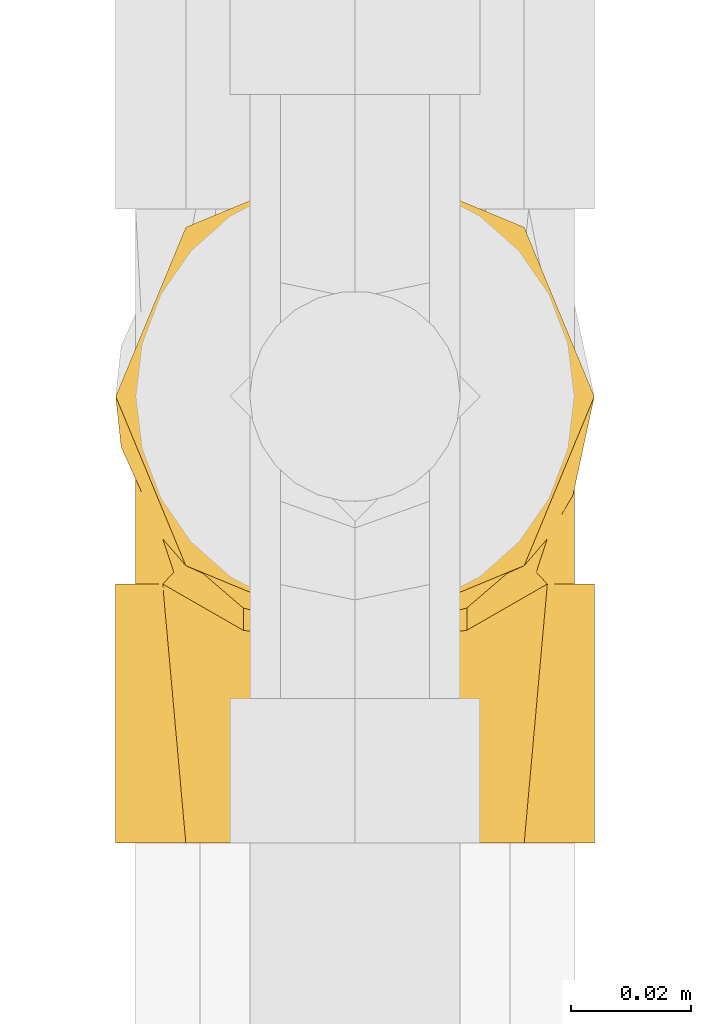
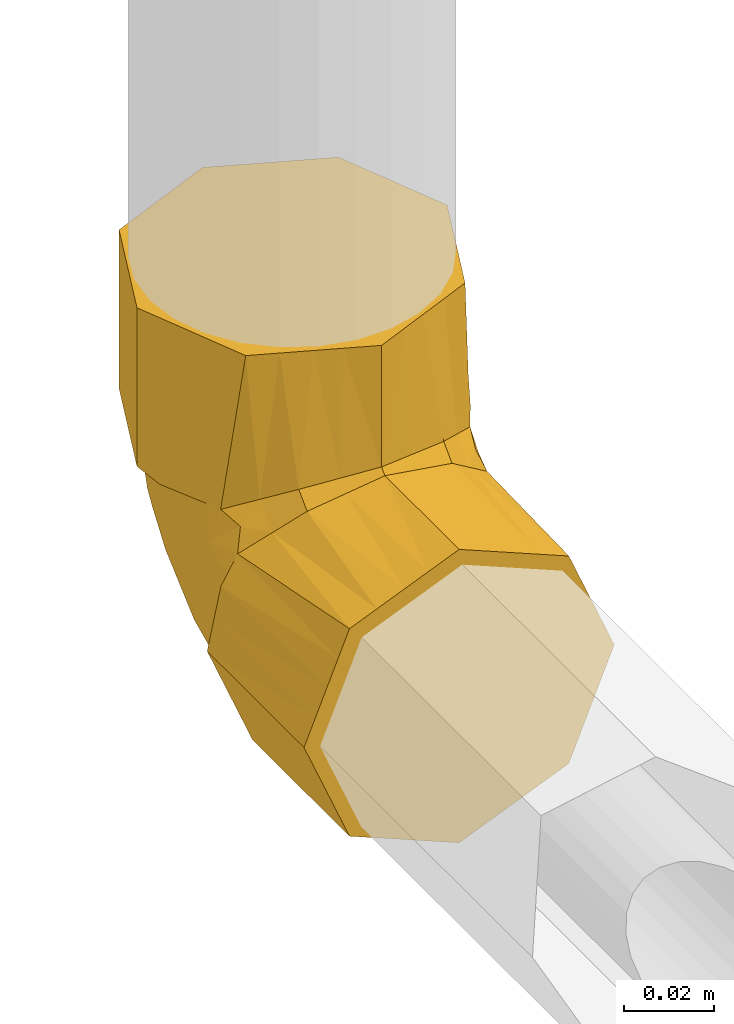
# One storey, part 244 of 652: 1 covering.
"""IFC2X3 building model written with IfcOpenShell, lengths in millimetres."""

from ifc_helpers import new_model, entity, si_unit, converted_unit, direction, frame, origin, place, context, subcontext, project, spatial, faceted_brep, material, type_object, element, save


model = new_model("IFC2X3")

# Units and contexts
model_context = context("Model", 3, precision=0.01, world=frame((0.0, 0.0, 308426.39999999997)), true_north=direction((6.123233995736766e-17, 1.0)))
plan_context = context("Plan", 3, precision=0.01, world=frame((0.0, 0.0, 308426.39999999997)), true_north=direction((6.123233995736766e-17, 1.0)))
body_context = subcontext(model_context, "Body", "Model", "MODEL_VIEW")
ifc_project = project(units=[si_unit("LENGTHUNIT", "METRE", prefix="MILLI"), si_unit("AREAUNIT", "SQUARE_METRE"), si_unit("VOLUMEUNIT", "CUBIC_METRE"), converted_unit("PLANEANGLEUNIT", "DEGREE", entity("IfcPlaneAngleMeasure", 0.017453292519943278), si_unit("PLANEANGLEUNIT", "RADIAN"), dimensions=[0, 0, 0, 0, 0, 0, 0])], contexts=[model_context, plan_context])

# Site, building, storey
site_placement = place(None, origin())
site = spatial("IfcSite", under=ifc_project, at=site_placement, Name="Default", CompositionType="ELEMENT")
building_placement = place(site_placement, origin())
building = spatial("IfcBuilding", under=site, at=building_placement, CompositionType="ELEMENT")
storey_placement = place(building_placement, frame((0.0, 0.0, 1730.6999999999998)))
storey = spatial("IfcBuildingStorey", under=building, at=storey_placement, Name="EG_Produktion_FFB", CompositionType="ELEMENT", Elevation=1730.6999999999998)

# Covering
ifc_material = material(Name="Dämmung - Armaflex-Schlauch")
covering_type = type_object("IfcCoveringType", Name="Rohrdämmung außen:Armaflex-Schlauch", PredefinedType="INSULATION")
covering_placement = place(storey_placement, frame((78488.60472776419, 51563.77835396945, 2358.6047277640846)))
element("IfcCovering", 1, at=covering_placement, inside=storey, type_object=covering_type, material=ifc_material, Name="Rohrdämmung außen:Armaflex-Schlauch", ObjectType="Rohrdämmung außen:Armaflex-Schlauch", PredefinedType="INSULATION", context=body_context, shape_type="Brep", body=[
    faceted_brep([(6.09855493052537, 43.05000000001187, 55.370387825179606), (5.626502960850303, 43.05000000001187, 51.35297020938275), (4.895272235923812, 43.05000000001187, 45.1298011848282), (8.337309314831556, 43.05000000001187, 37.49419488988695), (11.779346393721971, 43.05000000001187, 29.85858859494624), (15.013196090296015, 43.05000000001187, 22.68481256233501), (18.247045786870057, 43.05000000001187, 15.51103652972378), (29.821159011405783, 43.05000000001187, 11.25690750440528), (41.395272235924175, 43.05000000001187, 7.002778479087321), (48.61370078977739, 43.05000000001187, 10.652022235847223), (55.8321293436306, 43.05000000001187, 14.301265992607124), (63.050557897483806, 43.05000000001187, 17.950509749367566), (70.26898645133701, 43.05000000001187, 21.599753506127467), (72.65925463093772, 43.05000000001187, 28.974657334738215), (75.27726343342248, 43.05000000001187, 37.05222925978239), (77.89527223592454, 43.05000000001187, 45.1298011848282), (77.16404151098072, 43.05000000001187, 51.35297020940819), (76.69198954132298, 43.05000000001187, 55.370387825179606), (75.03870510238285, 43.05000000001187, 60.222069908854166), (73.38542066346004, 43.05000000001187, 65.07375199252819), (76.8423263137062, 43.05000000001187, 57.433378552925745), (80.29923196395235, 43.05000000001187, 49.793005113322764), (81.19527223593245, 43.05000000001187, 41.39527223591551), (77.88147587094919, 43.05000000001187, 33.395060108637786), (75.36669718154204, 43.05000000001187, 27.32384729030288), (72.45240965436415, 43.05000000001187, 20.288134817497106), (69.53812212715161, 43.05000000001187, 13.252422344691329), (62.502409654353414, 43.05000000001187, 10.338134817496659), (55.466697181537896, 43.05000000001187, 7.4238472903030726), (48.43098470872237, 43.05000000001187, 4.509559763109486), (41.395272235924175, 43.05000000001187, 1.5952722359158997), (33.39506004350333, 43.05000000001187, 4.9090686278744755), (27.32384729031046, 43.05000000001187, 7.4238472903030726), (20.288134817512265, 43.05000000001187, 10.338134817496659), (13.252422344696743, 43.05000000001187, 13.252422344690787), (10.338134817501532, 43.05000000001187, 20.288134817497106), (7.423847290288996, 43.05000000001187, 27.32384729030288), (4.909068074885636, 43.05000000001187, 33.3950613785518), (1.5952722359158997, 43.05000000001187, 41.39527223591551), (3.3647978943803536, 43.05000000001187, 49.598680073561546), (5.1343235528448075, 43.05000000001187, 57.80208791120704), (9.405123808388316, 43.05000000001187, 65.07375199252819), (7.751839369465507, 43.05000000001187, 60.222069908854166), (78.28098470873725, 0.0, 48.43098470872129), (75.36669718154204, 0.0, 55.46669718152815), (72.45240965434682, 0.0, 62.502409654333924), (69.53812212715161, 0.0, 69.53812212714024), (62.50240965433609, 0.0, 72.45240965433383), (55.466697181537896, 0.0, 75.36669718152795), (49.39548459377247, 0.0, 77.88147577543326), (41.395272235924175, 0.0, 81.19527223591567), (33.39506150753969, 0.0, 77.8814764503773), (27.32384729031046, 0.0, 75.36669718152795), (20.28813481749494, 0.0, 72.45240965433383), (13.252422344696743, 0.0, 69.53812212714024), (10.338134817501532, 0.0, 62.502409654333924), (7.4238472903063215, 0.0, 55.46669718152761), (4.509559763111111, 0.0, 48.43098470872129), (1.5952722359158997, 0.0, 41.39527223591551), (4.509559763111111, 0.0, 34.359559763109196), (7.423847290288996, 0.0, 27.32384729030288), (10.338134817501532, 0.0, 20.288134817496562), (13.252422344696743, 0.0, 13.252422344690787), (20.288134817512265, 0.0, 10.3381348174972), (27.32384729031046, 0.0, 7.4238472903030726), (34.359559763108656, 0.0, 4.509559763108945), (41.395272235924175, 0.0, 1.5952722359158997), (48.43098470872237, 0.0, 4.509559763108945), (55.466697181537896, 0.0, 7.4238472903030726), (62.502409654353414, 0.0, 10.3381348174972), (69.53812212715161, 0.0, 13.252422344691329), (74.5676791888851, 0.0, 25.394847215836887), (77.88147571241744, 0.0, 33.3950597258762), (81.19527223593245, 0.0, 41.39527223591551), (66.68337377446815, 39.20119599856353, 70.83137669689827), (41.395272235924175, 32.967959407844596, 81.19527223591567), (50.688299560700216, 34.16017570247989, 78.89213681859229), (59.981326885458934, 35.352391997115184, 76.5890014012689), (55.33481322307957, 34.75628384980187, 77.74056910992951), (16.10717069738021, 39.20119599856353, 70.83137669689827), (32.10224491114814, 34.16017570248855, 78.89213681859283), (22.809217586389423, 35.352391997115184, 76.5890014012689), (37.08137186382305, 33.52139610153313, 80.12613767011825), (1.5952722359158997, 74.25000000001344, 72.59527223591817), (4.90906857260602, 82.25021205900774, 72.59527223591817), (7.423847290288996, 88.32142494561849, 72.59527223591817), (10.338134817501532, 95.35713741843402, 72.59527223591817), (13.252422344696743, 102.39284989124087, 72.59527223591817), (20.28813481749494, 105.30713741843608, 72.59527223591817), (27.32384729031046, 108.22142494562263, 72.59527223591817), (33.39506143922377, 110.7362041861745, 72.59527223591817), (41.395272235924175, 114.05000000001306, 72.59527223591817), (49.39548405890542, 110.73620376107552, 72.59527223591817), (55.466697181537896, 108.22142494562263, 72.59527223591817), (62.502409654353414, 105.30713741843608, 72.59527223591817), (69.53812212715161, 102.39284989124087, 72.59527223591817), (72.45240965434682, 95.35713741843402, 72.59527223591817), (75.36669718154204, 88.32142494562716, 72.59527223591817), (78.28098470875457, 81.2857124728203, 72.59527223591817), (81.19527223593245, 74.25000000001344, 72.59527223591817), (79.425746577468, 66.04659216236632, 72.59527223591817), (77.65622091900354, 57.84318432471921, 72.59527223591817), (73.38542066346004, 50.571520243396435, 72.59527223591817), (75.03870510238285, 55.42320232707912, 72.59527223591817), (76.69198954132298, 60.27488441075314, 72.59527223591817), (77.1640414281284, 64.2923013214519, 72.59527223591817), (77.52965683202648, 67.40388618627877, 72.59527223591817), (77.89527223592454, 70.51547105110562, 72.59527223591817), (74.55483320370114, 77.9222713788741, 72.59527223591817), (71.21439417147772, 85.32907170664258, 72.59527223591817), (67.8739551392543, 92.73587203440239, 72.59527223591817), (64.53351610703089, 100.14267236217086, 72.59527223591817), (58.748955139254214, 102.2676277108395, 72.59527223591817), (52.96439417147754, 104.39258305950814, 72.59527223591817), (41.395272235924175, 108.64249375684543, 72.59527223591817), (34.17467666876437, 104.99034516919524, 72.59527223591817), (26.954081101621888, 101.3381965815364, 72.59527223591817), (19.73348553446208, 97.68604799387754, 72.59527223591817), (12.512889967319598, 94.0338994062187, 72.59527223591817), (10.608485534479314, 88.15429231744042, 72.59527223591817), (8.704081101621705, 82.27468522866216, 72.59527223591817), (4.895272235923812, 70.51547105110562, 72.59527223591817), (5.26088763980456, 67.40388618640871, 72.59527223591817), (5.6265030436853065, 64.29230132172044, 72.59527223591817), (6.09855493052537, 60.27488441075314, 72.59527223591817), (7.751839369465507, 55.42320232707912, 72.59527223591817), (9.405123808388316, 50.571520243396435, 72.59527223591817), (5.948218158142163, 58.21189368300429, 72.59527223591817), (2.4913125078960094, 65.8522671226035, 72.59527223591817), (78.28098470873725, 81.2857124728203, 115.64527223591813), (75.36669718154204, 88.32142494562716, 115.64527223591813), (72.45240965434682, 95.35713741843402, 115.64527223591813), (69.53812212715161, 102.39284989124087, 115.64527223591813), (57.39569695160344, 107.42240707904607, 115.64527223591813), (49.39548459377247, 110.73620353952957, 115.64527223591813), (41.395272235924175, 114.05000000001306, 115.64527223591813), (34.35955976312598, 111.13571247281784, 115.64527223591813), (27.32384729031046, 108.22142494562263, 115.64527223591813), (20.28813481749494, 105.30713741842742, 115.64527223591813), (13.252422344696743, 102.39284989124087, 115.64527223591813), (10.338134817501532, 95.35713741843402, 115.64527223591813), (7.4238472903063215, 88.32142494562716, 115.64527223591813), (4.509559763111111, 81.2857124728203, 115.64527223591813), (1.5952722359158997, 74.25000000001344, 115.64527223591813), (4.509559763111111, 67.21428752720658, 115.64527223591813), (7.423847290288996, 60.17857505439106, 115.64527223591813), (10.338134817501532, 53.142862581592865, 115.64527223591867), (13.252422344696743, 46.10715010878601, 115.64527223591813), (20.28813481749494, 43.19286258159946, 115.64527223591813), (27.32384729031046, 40.27857505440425, 115.64527223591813), (33.395059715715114, 37.763796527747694, 115.64527223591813), (41.395272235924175, 34.45000000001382, 115.64527223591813), (49.395482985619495, 37.763795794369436, 115.64527223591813), (55.466697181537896, 40.27857505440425, 115.64527223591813), (62.502409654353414, 43.192862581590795, 115.64527223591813), (69.53812212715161, 46.10715010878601, 115.64527223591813), (72.45240965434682, 53.142862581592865, 115.64527223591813), (75.36669718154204, 60.17857505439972, 115.64527223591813), (77.8814757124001, 66.24978748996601, 115.64527223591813), (81.19527223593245, 74.25000000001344, 115.64527223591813), (41.395272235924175, 34.45000000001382, 82.67731282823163), (50.688299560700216, 36.75313541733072, 81.48509653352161), (59.981326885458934, 39.05627083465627, 80.29288023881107), (50.023072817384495, 36.58826909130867, 81.5704394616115), (66.68337377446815, 44.81389553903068, 76.44407623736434), (16.10717069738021, 44.81389553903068, 76.44407623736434), (32.10224491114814, 36.75313541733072, 81.48509653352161), (22.809217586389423, 39.05627083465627, 80.29288023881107), (32.76747165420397, 36.588269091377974, 81.5704394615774), (37.08137194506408, 35.51913454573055, 82.12387614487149), (70.65290767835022, 87.4400129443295, 57.40447907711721), (70.91336597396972, 59.348609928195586, 29.221391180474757), (74.40809412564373, 64.90306423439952, 40.05276523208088), (77.89527223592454, 54.54953211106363, 51.722743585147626), (77.07752798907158, 57.65826392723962, 44.46871669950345), (76.96826993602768, 69.6935440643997, 55.206079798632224), (68.49449972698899, 78.76668687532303, 40.81191866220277), (65.48820465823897, 63.735763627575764, 24.889275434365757), (41.395272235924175, 91.87217906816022, 37.58562470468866), (49.463783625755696, 97.2895044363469, 46.90627199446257), (49.826587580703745, 81.0222551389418, 27.557347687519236), (41.395272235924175, 55.25554476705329, 14.648490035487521), (50.82629237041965, 61.78394282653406, 14.916371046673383), (62.241411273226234, 82.06890696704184, 36.28103805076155), (77.89527223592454, 68.68470117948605, 70.20187735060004), (77.89527223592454, 66.85393130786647, 67.80848246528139), (77.89527223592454, 63.19239156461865, 63.02169269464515), (77.89527223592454, 62.53250158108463, 62.1590079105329), (77.89527223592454, 58.87096183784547, 57.37221813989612), (65.57850605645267, 92.43998191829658, 55.056146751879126), (59.2600406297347, 71.36422849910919, 24.586625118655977), (60.27659836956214, 57.493897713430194, 17.342470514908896), (58.24092024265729, 92.84978030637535, 45.92174075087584), (55.90055874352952, 84.77174820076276, 33.99708214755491), (41.395272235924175, 100.25733641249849, 55.090448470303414), (41.395272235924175, 100.8250821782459, 56.27567245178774), (41.395272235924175, 67.46108953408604, 22.29420159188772), (41.395272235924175, 73.39433514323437, 26.010863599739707), (41.395272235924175, 79.6666343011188, 29.93991314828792), (55.80011869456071, 100.69929050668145, 57.878489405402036), (73.86746114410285, 78.77811020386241, 53.1751981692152), (41.395272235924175, 58.22216757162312, 16.506821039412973), (77.89527223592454, 48.32447730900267, 48.15377857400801), (77.2391786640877, 48.69317164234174, 55.979001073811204), (76.0110802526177, 47.964423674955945, 61.26475606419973), (41.395272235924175, 33.73736290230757, 81.90790933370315), (76.11562270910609, 51.58600496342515, 64.05926779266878), (71.5340814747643, 44.98822020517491, 70.65705174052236), (76.01108003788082, 54.38051589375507, 67.6808492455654), (77.22455062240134, 59.63820058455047, 67.04460292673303), (5.551365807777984, 48.693171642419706, 55.97900107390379), (4.895272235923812, 48.32447730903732, 48.15377857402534), (11.256463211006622, 44.98822011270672, 70.65705209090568), (6.674922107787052, 51.58600421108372, 64.05926854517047), (4.895272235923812, 58.87096183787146, 57.3722181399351), (6.7794642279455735, 47.964423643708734, 61.26475607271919), (6.779464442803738, 54.38051588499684, 67.68084927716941), (5.565993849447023, 59.63820058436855, 67.04460292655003), (4.895272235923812, 66.85393130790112, 67.8084824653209), (4.895272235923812, 68.68470117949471, 70.201877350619), (4.895272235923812, 63.19239156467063, 63.021692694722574), (4.895272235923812, 62.53250158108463, 62.1590079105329), (4.895272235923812, 54.54953211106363, 51.722743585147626), (7.904825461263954, 59.71456886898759, 37.596494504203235), (11.153131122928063, 58.230498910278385, 29.779001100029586), (6.9092149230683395, 76.57285852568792, 58.35673429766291), (31.851584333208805, 83.5066227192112, 30.250088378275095), (16.779704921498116, 80.03320078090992, 38.5098237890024), (9.122171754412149, 74.5903343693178, 47.23069909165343), (14.6078368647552, 87.07939433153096, 50.96010723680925), (5.8966784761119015, 66.22403301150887, 50.77856611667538), (5.88827797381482, 56.06914431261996, 42.44960378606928), (15.351617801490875, 67.93837358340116, 29.82669278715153), (22.54033754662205, 86.81855141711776, 39.68498593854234), (31.634152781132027, 98.52707757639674, 49.866350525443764), (22.719372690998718, 96.99211743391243, 55.10540828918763), (9.627121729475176, 83.51012836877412, 58.247507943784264), (24.594765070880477, 64.90812724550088, 19.804135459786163), (21.091652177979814, 74.90326070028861, 29.150871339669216), (16.75038261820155, 56.08355083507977, 21.43902557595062), (33.11251139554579, 68.7569483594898, 18.424421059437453)], [[[0, 1, 2, 3, 4, 5, 6, 7, 8, 9, 10, 11, 12, 13, 14, 15, 16, 17, 18, 19, 20, 21, 22, 23, 24, 25, 26, 27, 28, 29, 30, 31, 32, 33, 34, 35, 36, 37, 38, 39, 40, 41, 42]], [[43, 44, 45, 46, 47, 48, 49, 50, 51, 52, 53, 54, 55, 56, 57, 58, 59, 60, 61, 62, 63, 64, 65, 66, 67, 68, 69, 70, 71, 72, 73]], [[47, 46, 74]], [[75, 50, 49]], [[76, 75, 49]], [[48, 77, 78, 76]], [[47, 74, 77]], [[44, 20, 45]], [[43, 21, 44]], [[46, 19, 74]], [[77, 48, 47]], [[44, 21, 20]], [[43, 22, 21]], [[48, 76, 49]], [[43, 73, 22]], [[45, 20, 19]], [[19, 46, 45]], [[23, 22, 73, 72, 71, 70, 26, 25, 24]], [[26, 70, 69, 68, 67, 66, 30, 29, 28, 27]], [[38, 37, 36, 35, 34, 62, 61, 60, 59, 58]], [[30, 66, 65, 64, 63, 62, 34, 33, 32, 31]], [[56, 40, 39]], [[53, 79, 54]], [[39, 57, 56]], [[41, 55, 54]], [[40, 55, 41]], [[80, 52, 51]], [[52, 80, 81]], [[58, 57, 38]], [[51, 75, 82, 80]], [[38, 57, 39]], [[79, 53, 81]], [[55, 40, 56]], [[51, 50, 75]], [[53, 52, 81]], [[79, 41, 54]], [[83, 84, 85, 86, 87, 88, 89, 90, 91, 92, 93, 94, 95, 96, 97, 98, 99, 100, 101, 102, 103, 104, 105, 106, 107, 108, 109, 110, 111, 112, 113, 114, 115, 116, 117, 118, 119, 120, 121, 122, 123, 124, 125, 126, 127, 128]], [[129, 130, 131, 132, 133, 134, 135, 136, 137, 138, 139, 140, 141, 142, 143, 144, 145, 146, 147, 148, 149, 150, 151, 152, 153, 154, 155, 156, 157, 158, 159]], [[135, 134, 133, 132, 95, 94, 93, 92, 91]], [[95, 132, 131, 130, 129, 159, 99, 98, 97, 96]], [[159, 158, 157, 100]], [[101, 156, 102]], [[99, 159, 100]], [[101, 100, 157]], [[152, 151, 160]], [[102, 156, 155]], [[153, 161, 162]], [[161, 153, 152]], [[152, 160, 163, 161]], [[154, 164, 155]], [[164, 154, 162]], [[156, 101, 157]], [[154, 153, 162]], [[164, 102, 155]], [[148, 147, 165]], [[149, 166, 150]], [[166, 149, 167]], [[160, 151, 150]], [[148, 165, 167]], [[145, 127, 146]], [[144, 128, 145]], [[147, 126, 165]], [[167, 149, 148]], [[145, 128, 127]], [[144, 83, 128]], [[150, 166, 168, 169, 160]], [[144, 143, 83]], [[146, 127, 126]], [[126, 147, 146]], [[91, 90, 89, 88, 87, 139, 138, 137, 136, 135]], [[141, 140, 139, 87, 86, 85, 84, 83, 143, 142]], [[109, 170, 110]], [[13, 171, 172]], [[14, 13, 172]], [[173, 174, 175]], [[176, 171, 177]], [[15, 14, 174]], [[178, 179, 180]], [[9, 181, 182]], [[172, 175, 174]], [[13, 12, 171]], [[12, 11, 177]], [[176, 177, 183]], [[175, 107, 184, 185, 186, 187, 188, 173]], [[189, 170, 176]], [[176, 172, 171]], [[190, 191, 182]], [[11, 10, 191]], [[177, 11, 191]], [[170, 189, 110]], [[192, 183, 193]], [[179, 178, 194, 195]], [[182, 191, 10]], [[190, 182, 180]], [[177, 191, 190]], [[182, 10, 9]], [[182, 196, 180]], [[177, 190, 183]], [[177, 171, 12]], [[180, 196, 197, 198, 178]], [[113, 179, 195]], [[112, 111, 199, 113]], [[199, 111, 189]], [[195, 114, 113]], [[179, 192, 193]], [[200, 175, 172]], [[200, 108, 175]], [[172, 176, 200]], [[189, 111, 110]], [[200, 170, 109]], [[183, 189, 176]], [[108, 200, 109]], [[189, 192, 199]], [[108, 107, 175]], [[176, 170, 200]], [[193, 190, 180]], [[189, 183, 192]], [[190, 193, 183]], [[179, 193, 180]], [[181, 9, 8]], [[182, 181, 201, 196]], [[192, 179, 199]], [[179, 113, 199]], [[174, 173, 202, 15]], [[172, 174, 14]], [[173, 203, 202]], [[188, 204, 203]], [[17, 203, 18]], [[202, 17, 16, 15]], [[205, 76, 163]], [[74, 164, 162, 77]], [[163, 76, 78, 77, 162, 161]], [[206, 102, 207]], [[207, 164, 74]], [[106, 105, 104, 185, 184, 107]], [[206, 208, 102]], [[186, 185, 209, 188, 187]], [[205, 75, 76]], [[163, 160, 205]], [[206, 207, 19]], [[164, 207, 102]], [[19, 18, 204]], [[19, 207, 74]], [[202, 203, 17]], [[204, 206, 19]], [[203, 173, 188]], [[18, 203, 204]], [[102, 208, 103]], [[103, 209, 104]], [[208, 206, 188]], [[209, 103, 208]], [[209, 185, 104]], [[188, 209, 208]], [[204, 188, 206]], [[205, 160, 169]], [[210, 211, 0]], [[169, 168, 166, 167, 81, 80, 82]], [[41, 212, 213]], [[1, 0, 211, 2]], [[213, 214, 215]], [[205, 169, 82]], [[79, 165, 212]], [[126, 125, 216]], [[213, 212, 126]], [[205, 82, 75]], [[167, 165, 79, 81]], [[217, 124, 218]], [[210, 215, 214]], [[219, 218, 124, 123, 122, 121]], [[41, 79, 212]], [[212, 165, 126]], [[215, 41, 213]], [[125, 124, 217]], [[126, 216, 213]], [[125, 217, 216]], [[217, 218, 220, 221, 214]], [[215, 42, 41]], [[0, 42, 210]], [[211, 210, 222]], [[214, 213, 216]], [[210, 42, 215]], [[216, 217, 214]], [[210, 214, 222]], [[4, 223, 224]], [[121, 120, 225]], [[226, 178, 198, 197]], [[227, 228, 229]], [[230, 228, 223]], [[231, 222, 230]], [[224, 228, 232]], [[233, 234, 226]], [[3, 231, 223]], [[235, 234, 233]], [[236, 225, 120]], [[231, 2, 211, 222]], [[226, 237, 238]], [[4, 3, 223]], [[225, 221, 220, 218, 219, 121]], [[239, 224, 232]], [[6, 237, 7]], [[237, 6, 239]], [[240, 201, 7]], [[230, 225, 228]], [[226, 240, 237]], [[236, 228, 225]], [[229, 117, 235]], [[194, 234, 115]], [[226, 234, 178]], [[115, 114, 195, 194]], [[237, 239, 238]], [[240, 226, 197]], [[228, 224, 223]], [[224, 239, 5]], [[5, 239, 6]], [[5, 4, 224]], [[239, 232, 238]], [[7, 201, 181, 8]], [[7, 237, 240]], [[240, 197, 196, 201]], [[229, 118, 117]], [[194, 178, 234]], [[233, 238, 227]], [[235, 117, 116]], [[234, 235, 116]], [[229, 235, 233]], [[231, 3, 2]], [[230, 223, 231]], [[230, 222, 214, 221]], [[225, 230, 221]], [[119, 118, 236, 120]], [[236, 118, 229]], [[229, 228, 236]], [[234, 116, 115]], [[227, 238, 232]], [[226, 238, 233]], [[228, 227, 232]], [[233, 227, 229]]]),
])

save(model, "model.ifc")
